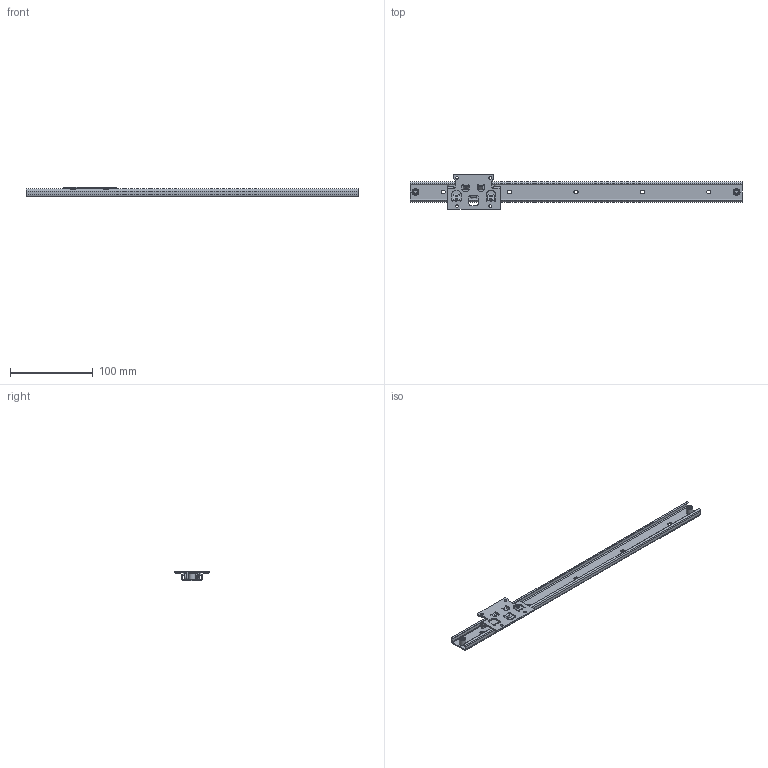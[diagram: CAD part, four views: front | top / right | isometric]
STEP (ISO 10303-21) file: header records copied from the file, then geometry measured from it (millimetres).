
FILE_DESCRIPTION((''),'1');
FILE_NAME('C:/Users/t-inoue/Desktop/25SW0400SS hp.stp','2016-07-29T02:30:32',(''),(''),'Spatial Interop R21 SP3','Kubotek KeyCreator 2011 V10.0.2 (22737)',' ');
FILE_SCHEMA(('automotive_design'));
Length unit declared in the file: millimetre
Products named in the file (426): Unnamed[1]
Bounding box: 400 x 42 x 12 mm (x, y, z)
Surface area: 40851.5 mm2 (no closed solid volume)
Topology: 0 solids, 426 shells, 426 faces, 1814 edges, 1657 vertices
Faces by surface type: plane 184, cylinder 128, cone 105, torus 8, sphere 1
Full cylindrical faces by diameter (mm): 1.6 x1, 3.2 x6, 3.3 x4, 3.5 x1, 4 x10, 5 x6, 5.5 x4, 5.6 x2, 7 x6, 8.2 x2
Entity records: 36362 total; most frequent: CARTESIAN_POINT 4376, DIRECTION 4145, PRESENTATION_STYLE_ASSIGNMENT 1704, COLOUR_RGB 1704, AXIS2_PLACEMENT_3D 1671, ORIENTED_EDGE 1630, EDGE_CURVE 1630, VERTEX_POINT 1630
